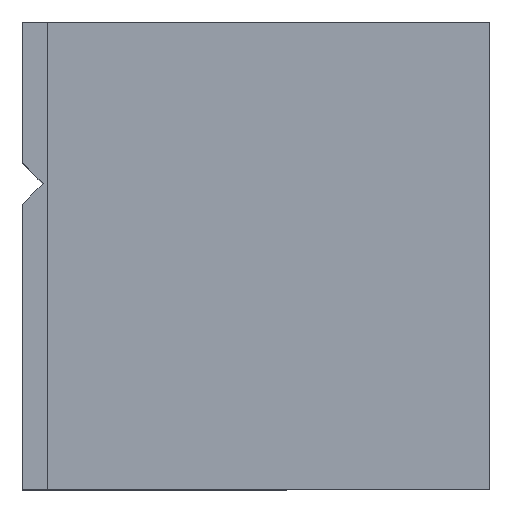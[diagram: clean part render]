
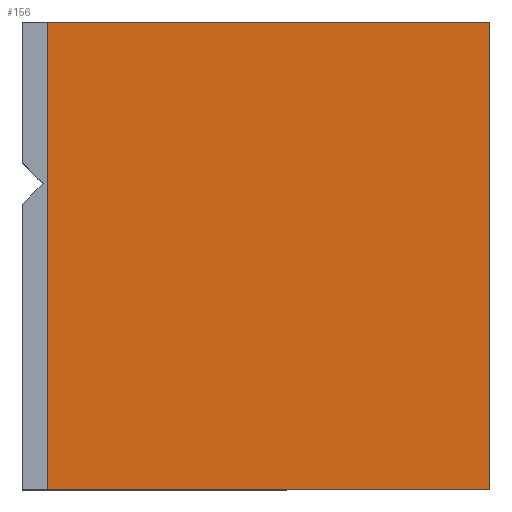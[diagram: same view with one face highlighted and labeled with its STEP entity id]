
A CAD part, top view. The second image highlights one B-rep face of the part: STEP entity #156.
In plain terms, the highlighted planar face has unit normal (0, 0, 1).
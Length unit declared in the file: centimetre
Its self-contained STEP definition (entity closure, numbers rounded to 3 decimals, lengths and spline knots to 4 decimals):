
#3 = EDGE_CURVE ( 'NONE', #1308, #1254, #517, .T. ) ;
#40 = LINE ( 'NONE', #1297, #1205 ) ;
#156 = ADVANCED_FACE ( 'NONE', ( #874 ), #1208, .T. ) ;
#258 = VERTEX_POINT ( 'NONE', #1344 ) ;
#299 = VECTOR ( 'NONE', #823, 100. ) ;
#339 = ORIENTED_EDGE ( 'NONE', *, *, #3, .T. ) ;
#354 = DIRECTION ( 'NONE',  ( 0., 0., 1. ) ) ;
#402 = CARTESIAN_POINT ( 'NONE',  ( 53.8957, 1000., 1000. ) ) ;
#446 = DIRECTION ( 'NONE',  ( 0., 1., 0. ) ) ;
#464 = LINE ( 'NONE', #557, #706 ) ;
#478 = ORIENTED_EDGE ( 'NONE', *, *, #1230, .T. ) ;
#514 = VERTEX_POINT ( 'NONE', #868 ) ;
#517 = LINE ( 'NONE', #1042, #1275 ) ;
#557 = CARTESIAN_POINT ( 'NONE',  ( 1000., 1000., 1000. ) ) ;
#568 = CARTESIAN_POINT ( 'NONE',  ( 53.8957, 0., 1000. ) ) ;
#598 = ORIENTED_EDGE ( 'NONE', *, *, #1092, .T. ) ;
#706 = VECTOR ( 'NONE', #446, 100. ) ;
#773 = DIRECTION ( 'NONE',  ( 1., 0., 0. ) ) ;
#801 = ORIENTED_EDGE ( 'NONE', *, *, #895, .T. ) ;
#823 = DIRECTION ( 'NONE',  ( 0., -1., 0. ) ) ;
#842 = EDGE_LOOP ( 'NONE', ( #598, #339, #478, #801 ) ) ;
#868 = CARTESIAN_POINT ( 'NONE',  ( 53.8957, 1000., 1000. ) ) ;
#869 = CARTESIAN_POINT ( 'NONE',  ( 1000., 0., 1000. ) ) ;
#874 = FACE_OUTER_BOUND ( 'NONE', #842, .T. ) ;
#895 = EDGE_CURVE ( 'NONE', #258, #514, #40, .T. ) ;
#929 = LINE ( 'NONE', #402, #299 ) ;
#1042 = CARTESIAN_POINT ( 'NONE',  ( 0., 0., 1000. ) ) ;
#1050 = DIRECTION ( 'NONE',  ( 1., 0., 0. ) ) ;
#1092 = EDGE_CURVE ( 'NONE', #514, #1308, #929, .T. ) ;
#1100 = DIRECTION ( 'NONE',  ( -1., 0., 0. ) ) ;
#1205 = VECTOR ( 'NONE', #1100, 100. ) ;
#1208 = PLANE ( 'NONE',  #1335 ) ;
#1230 = EDGE_CURVE ( 'NONE', #1254, #258, #464, .T. ) ;
#1254 = VERTEX_POINT ( 'NONE', #869 ) ;
#1275 = VECTOR ( 'NONE', #1050, 100. ) ;
#1297 = CARTESIAN_POINT ( 'NONE',  ( 0., 1000., 1000. ) ) ;
#1300 = CARTESIAN_POINT ( 'NONE',  ( 0., 0., 1000. ) ) ;
#1308 = VERTEX_POINT ( 'NONE', #568 ) ;
#1335 = AXIS2_PLACEMENT_3D ( 'NONE', #1300, #354, #773 ) ;
#1344 = CARTESIAN_POINT ( 'NONE',  ( 1000., 1000., 1000. ) ) ;
